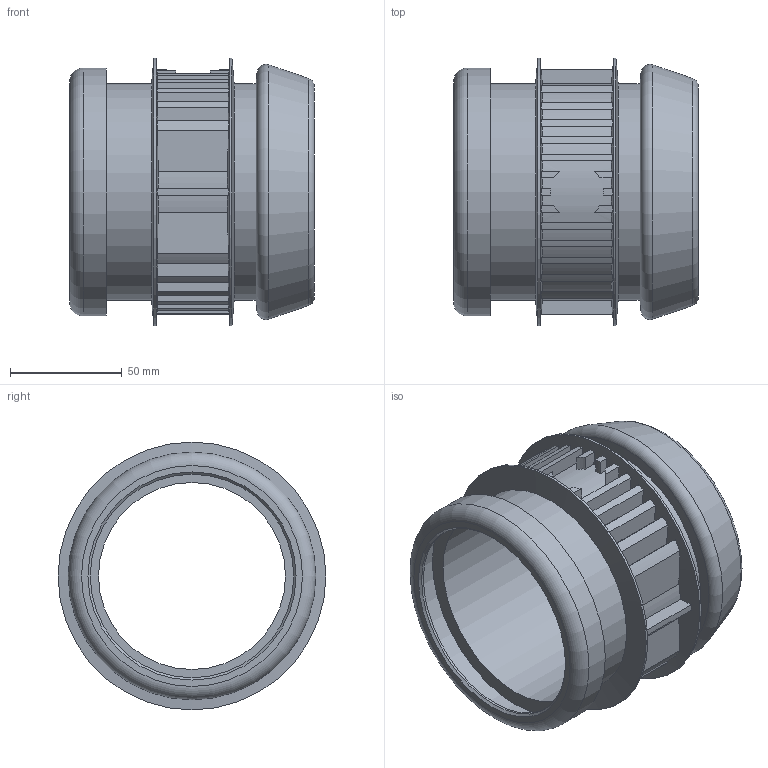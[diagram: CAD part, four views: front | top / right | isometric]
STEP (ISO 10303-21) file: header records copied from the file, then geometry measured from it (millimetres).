
FILE_DESCRIPTION(/* description */ (''),/* implementation_level */ '2;1');
FILE_NAME(/* name */ 'Z:\Geberit\Export\NewStep\308002.stp',/* time_stamp */ '2014-04-01T20:05:15+02:00',/* author */ ('ML'),/* organization */ (''),/* preprocessor_version */ 'ST-DEVELOPER v15.2',/* originating_system */ 'Autodesk Inventor 2014',/* authorisation */ '');
FILE_SCHEMA (('AUTOMOTIVE_DESIGN { 1 0 10303 214 3 1 1 }'));
Length unit declared in the file: millimetre
Products named in the file (1): 308002
Bounding box: 109.66 x 120 x 120 mm (x, y, z)
Volume: 160348.5 mm3; surface area: 110983.7 mm2
Topology: 1 solids, 1 shells, 156 faces, 431 edges, 281 vertices
Faces by surface type: cylinder 73, plane 68, cone 11, torus 4
Full cylindrical faces by diameter (mm): 83.8 x1, 91.2 x4, 97.2 x2, 104.68 x1, 111 x1, 120 x2
Entity records: 4943 total; most frequent: CARTESIAN_POINT 1123, ORIENTED_EDGE 806, DIRECTION 736, EDGE_CURVE 403, AXIS2_PLACEMENT_3D 300, VERTEX_POINT 279, EDGE_LOOP 188, STYLED_ITEM 157
